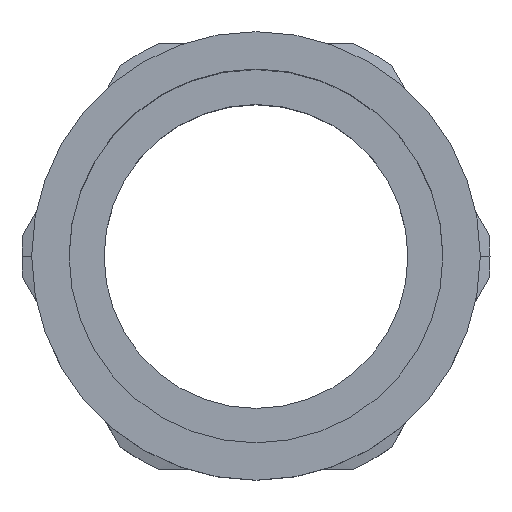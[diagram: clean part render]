
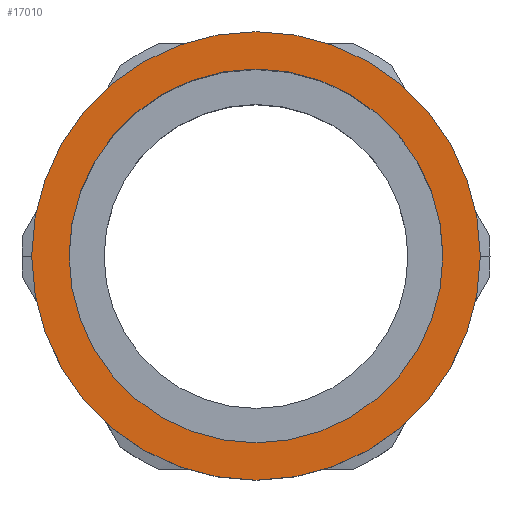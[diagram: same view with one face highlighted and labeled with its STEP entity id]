
A CAD part, top view. The second image highlights one B-rep face of the part: STEP entity #17010.
In plain terms, the highlighted planar face has unit normal (0, 0, 1) as drawn and (-1, 0, 0) by its records, which use the part's own axes.
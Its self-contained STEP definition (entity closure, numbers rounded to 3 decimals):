
#11960=CARTESIAN_POINT('',(-63.2,-80.,-30.75));
#11970=VERTEX_POINT('',#11960);
#12130=CARTESIAN_POINT('',(-63.2,-80.,30.75));
#12140=VERTEX_POINT('',#12130);
#12170=CARTESIAN_POINT('',(-63.2,-80.,0.));
#12180=DIRECTION('',(-1.,0.,0.));
#12190=DIRECTION('',(0.,0.,1.));
#12200=AXIS2_PLACEMENT_3D('',#12170,#12180,#12190);
#12210=CIRCLE('',#12200,30.75);
#12220=EDGE_CURVE('',#11970,#12140,#12210,.T.);
#16760=CARTESIAN_POINT('',(-63.2,-44.15,0.));
#16770=DIRECTION('',(1.,0.,0.));
#16780=DIRECTION('',(0.,-1.,0.));
#16790=AXIS2_PLACEMENT_3D('',#16760,#16770,#16780);
#16800=PLANE('',#16790);
#16810=EDGE_CURVE('',#12140,#11970,#12210,.T.);
#16820=ORIENTED_EDGE('',*,*,#16810,.F.);
#16830=ORIENTED_EDGE('',*,*,#12220,.F.);
#16840=EDGE_LOOP('',(#16830,#16820));
#16850=FACE_BOUND('',#16840,.T.);
#16860=CARTESIAN_POINT('',(-63.2,-80.,0.));
#16870=DIRECTION('',(-1.,0.,0.));
#16880=DIRECTION('',(0.,0.,1.));
#16890=AXIS2_PLACEMENT_3D('',#16860,#16870,#16880);
#16900=CIRCLE('',#16890,36.9);
#16910=CARTESIAN_POINT('',(-63.2,-80.,36.9));
#16920=VERTEX_POINT('',#16910);
#16930=CARTESIAN_POINT('',(-63.2,-80.,-36.9));
#16940=VERTEX_POINT('',#16930);
#16950=EDGE_CURVE('',#16920,#16940,#16900,.T.);
#16960=ORIENTED_EDGE('',*,*,#16950,.T.);
#16970=EDGE_CURVE('',#16940,#16920,#16900,.T.);
#16980=ORIENTED_EDGE('',*,*,#16970,.T.);
#16990=EDGE_LOOP('',(#16980,#16960));
#17000=FACE_OUTER_BOUND('',#16990,.T.);
#17010=ADVANCED_FACE('',(#16850,#17000),#16800,.F.);
